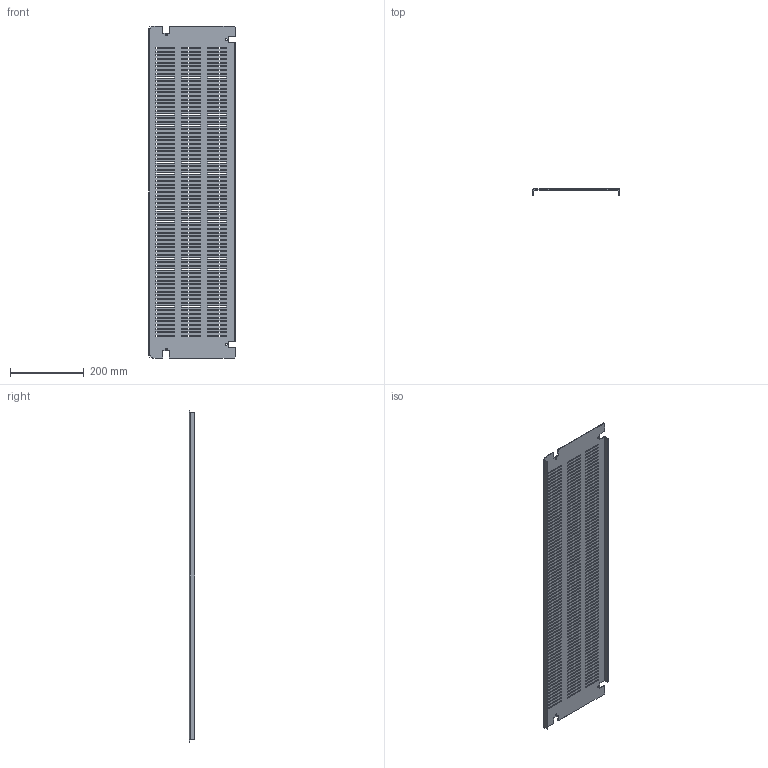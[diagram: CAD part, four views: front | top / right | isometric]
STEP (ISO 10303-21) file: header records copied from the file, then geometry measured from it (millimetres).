
FILE_DESCRIPTION(('CAx-IF Rec.Pracs.---Model Styling and Organization---1.2---2011-12-15','CAx-IF Rec.Pracs.---Geometric and Assembly Validation Properties---4.1---2014-06-16','CAx-IF Rec.Pracs.---PMI Polyline Presentation---2.0---2013-05-24'),'2;1');
FILE_NAME('R5CPFAP1013.stp','2021-05-06T03:33:33+03:00',(''),(''),'STEP Interface 4.4 by CT CoreTechnologie','3D_Evolution4.4 by CT CoreTechnologie','');
FILE_SCHEMA(('AUTOMOTIVE_DESIGN { 1 0 10303 214 1 1 1 1 }'));
Length unit declared in the file: millimetre
Products named in the file (2): R5CPFAP1013; RB.0543.00.00.0_-03
Assembly tree (1 placements, depth 2):
  R5CPFAP1013
    RB.0543.00.00.0_-03
Bounding box: 234 x 15 x 899 mm (x, y, z)
Surface area: 443520.2 mm2 (no closed solid volume)
Topology: 0 solids, 1 shells, 1002 faces, 2996 edges, 1996 vertices
Faces by surface type: plane 990, cylinder 12
Entity records: 34049 total; most frequent: CARTESIAN_POINT 5996, ORIENTED_EDGE 5992, DIRECTION 5028, EDGE_CURVE 2996, VECTOR 2972, LINE 2972, VERTEX_POINT 1996, EDGE_LOOP 1484
